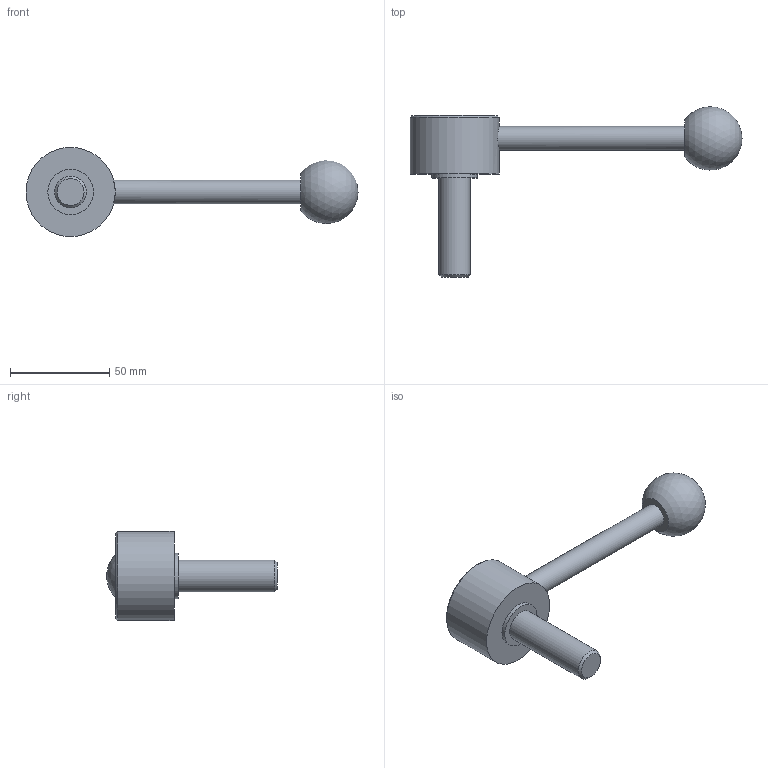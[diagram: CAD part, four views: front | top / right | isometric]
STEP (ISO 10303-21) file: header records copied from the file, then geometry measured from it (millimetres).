
FILE_DESCRIPTION( ( 'STEP AP203' ), '1' );
FILE_NAME( 'C:/Temp/Ganter_Step_05_03_2020/data/2_1/gn_125/gn_125_ms/gn_125_ms_d/Flat Adjustable Lever GN 125-45-M16-50-D.stp', '2020-03-05T11:00:52', ( 'License CC BY-ND 4.0' ), ( 'CADENAS' ), ' ', 'PARTsolutions', ' ' );
FILE_SCHEMA( ( 'CONFIG_CONTROL_DESIGN' ) );
Length unit declared in the file: millimetre
Products named in the file (1): _Flat Adjustable Lever GN 125-45-M16-50-D
Bounding box: 167.5 x 85.88 x 45 mm (x, y, z)
Volume: 84825.7 mm3; surface area: 16413.6 mm2
Topology: 1 solids, 1 shells, 14 faces, 23 edges, 15 vertices
Faces by surface type: plane 6, cylinder 5, cone 2, sphere 1
Full cylindrical faces by diameter (mm): 12 x1, 16 x1, 23 x1, 32 x1, 45 x1
Entity records: 402 total; most frequent: CARTESIAN_POINT 125, DIRECTION 54, AXIS2_PLACEMENT_3D 27, EDGE_LOOP 26, ORIENTED_EDGE 26, FACE_OUTER_BOUND 19, ADVANCED_FACE 14, VERTEX_POINT 14
